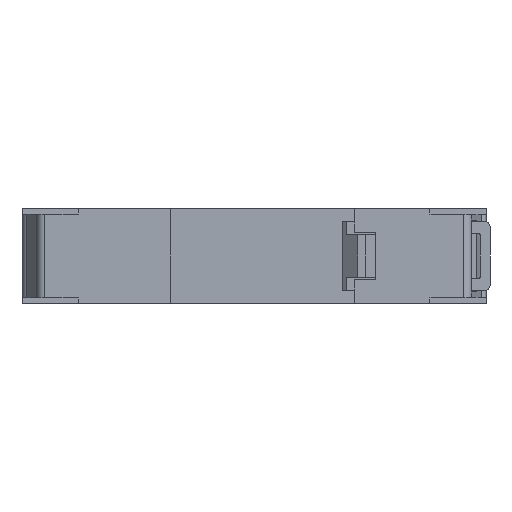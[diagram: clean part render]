
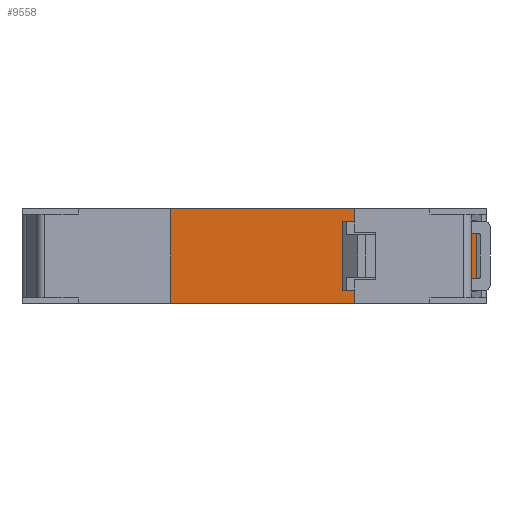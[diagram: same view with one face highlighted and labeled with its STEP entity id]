
A CAD part, front view. The second image highlights one B-rep face of the part: STEP entity #9558.
In plain terms, the highlighted planar face has unit normal (0, -1, 0).
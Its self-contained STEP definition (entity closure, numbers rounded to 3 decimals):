
#2549 = CARTESIAN_POINT ( 'NONE',  ( 50.099, 410.41, 8.75 ) ) ;
#3815 = CARTESIAN_POINT ( 'NONE',  ( 50.099, 410.41, 8.75 ) ) ;
#3816 = LINE ( 'NONE', #3815, #3880 ) ;
#3817 = CARTESIAN_POINT ( 'NONE',  ( 50.099, 410.41, -6.65 ) ) ;
#3878 = CARTESIAN_POINT ( 'NONE',  ( 50.099, 410.41, -8.75 ) ) ;
#3879 = DIRECTION ( 'NONE',  ( 0., 0., -1. ) ) ;
#3880 = VECTOR ( 'NONE', #3879, 1000. ) ;
#4222 = PLANE ( 'NONE',  #4517 ) ;
#4333 = CARTESIAN_POINT ( 'NONE',  ( 14.099, 410.41, 8.75 ) ) ;
#4334 = DIRECTION ( 'NONE',  ( 0., 0., -1. ) ) ;
#4335 = VECTOR ( 'NONE', #4334, 1000. ) ;
#4336 = CARTESIAN_POINT ( 'NONE',  ( 14.099, 410.41, 8.75 ) ) ;
#4337 = LINE ( 'NONE', #4336, #4335 ) ;
#4338 = CARTESIAN_POINT ( 'NONE',  ( 14.099, 410.41, -8.75 ) ) ;
#4476 = FACE_OUTER_BOUND ( 'NONE', #9559, .T. ) ;
#4514 = DIRECTION ( 'NONE',  ( 0., 0., 1. ) ) ;
#4515 = DIRECTION ( 'NONE',  ( 0., 1., 0. ) ) ;
#4516 = CARTESIAN_POINT ( 'NONE',  ( 14.099, 410.41, 8.75 ) ) ;
#4517 = AXIS2_PLACEMENT_3D ( 'NONE', #4516, #4515, #4514 ) ;
#4540 = DIRECTION ( 'NONE',  ( 0., 0., -1. ) ) ;
#4541 = VECTOR ( 'NONE', #4540, 1000. ) ;
#4542 = CARTESIAN_POINT ( 'NONE',  ( 72.661, 410.41, 8.75 ) ) ;
#4543 = LINE ( 'NONE', #4542, #4541 ) ;
#4545 = DIRECTION ( 'NONE',  ( 1., 0., 0. ) ) ;
#4546 = VECTOR ( 'NONE', #4545, 1000. ) ;
#4547 = CARTESIAN_POINT ( 'NONE',  ( 14.099, 410.41, -8.75 ) ) ;
#4548 = LINE ( 'NONE', #4547, #4546 ) ;
#4591 = DIRECTION ( 'NONE',  ( 0., 0., -1. ) ) ;
#4592 = VECTOR ( 'NONE', #4591, 1000. ) ;
#4593 = CARTESIAN_POINT ( 'NONE',  ( 50.099, 410.41, 8.75 ) ) ;
#4594 = LINE ( 'NONE', #4593, #4592 ) ;
#4596 = CARTESIAN_POINT ( 'NONE',  ( 50.099, 410.41, 6.65 ) ) ;
#4597 = DIRECTION ( 'NONE',  ( -1., 0., 0. ) ) ;
#4598 = VECTOR ( 'NONE', #4597, 1000. ) ;
#4599 = CARTESIAN_POINT ( 'NONE',  ( 74.499, 410.41, 6.65 ) ) ;
#4600 = LINE ( 'NONE', #4599, #4598 ) ;
#4601 = DIRECTION ( 'NONE',  ( -1., 0., 0. ) ) ;
#4602 = VECTOR ( 'NONE', #4601, 1000. ) ;
#4603 = CARTESIAN_POINT ( 'NONE',  ( 74.499, 410.41, -6.65 ) ) ;
#4604 = LINE ( 'NONE', #4603, #4602 ) ;
#4772 = DIRECTION ( 'NONE',  ( 1., 0., 0. ) ) ;
#4773 = VECTOR ( 'NONE', #4772, 1000. ) ;
#4774 = CARTESIAN_POINT ( 'NONE',  ( 14.099, 410.41, 8.75 ) ) ;
#4775 = LINE ( 'NONE', #4774, #4773 ) ;
#4782 = CARTESIAN_POINT ( 'NONE',  ( 72.661, 410.41, -6.65 ) ) ;
#4783 = CARTESIAN_POINT ( 'NONE',  ( 72.661, 410.41, 6.65 ) ) ;
#8878 = VERTEX_POINT ( 'NONE', #2549 ) ;
#9322 = VERTEX_POINT ( 'NONE', #3817 ) ;
#9324 = EDGE_CURVE ( 'NONE', #9322, #9325, #3816, .T. ) ;
#9325 = VERTEX_POINT ( 'NONE', #3878 ) ;
#9486 = VERTEX_POINT ( 'NONE', #4338 ) ;
#9488 = EDGE_CURVE ( 'NONE', #9489, #9486, #4337, .T. ) ;
#9489 = VERTEX_POINT ( 'NONE', #4333 ) ;
#9558 = ADVANCED_FACE ( 'NONE', ( #4476 ), #4222, .F. ) ;
#9559 = EDGE_LOOP ( 'NONE', ( #9587, #9589, #9590, #9592, #9593, #9596, #9664, #9646 ) ) ;
#9566 = EDGE_CURVE ( 'NONE', #9656, #9657, #4543, .T. ) ;
#9587 = ORIENTED_EDGE ( 'NONE', *, *, #9588, .T. ) ;
#9588 = EDGE_CURVE ( 'NONE', #9486, #9325, #4548, .T. ) ;
#9589 = ORIENTED_EDGE ( 'NONE', *, *, #9324, .F. ) ;
#9590 = ORIENTED_EDGE ( 'NONE', *, *, #9591, .F. ) ;
#9591 = EDGE_CURVE ( 'NONE', #9657, #9322, #4604, .T. ) ;
#9592 = ORIENTED_EDGE ( 'NONE', *, *, #9566, .F. ) ;
#9593 = ORIENTED_EDGE ( 'NONE', *, *, #9594, .T. ) ;
#9594 = EDGE_CURVE ( 'NONE', #9656, #9595, #4600, .T. ) ;
#9595 = VERTEX_POINT ( 'NONE', #4596 ) ;
#9596 = ORIENTED_EDGE ( 'NONE', *, *, #9597, .F. ) ;
#9597 = EDGE_CURVE ( 'NONE', #8878, #9595, #4594, .T. ) ;
#9646 = ORIENTED_EDGE ( 'NONE', *, *, #9488, .T. ) ;
#9656 = VERTEX_POINT ( 'NONE', #4783 ) ;
#9657 = VERTEX_POINT ( 'NONE', #4782 ) ;
#9663 = EDGE_CURVE ( 'NONE', #9489, #8878, #4775, .T. ) ;
#9664 = ORIENTED_EDGE ( 'NONE', *, *, #9663, .F. ) ;
